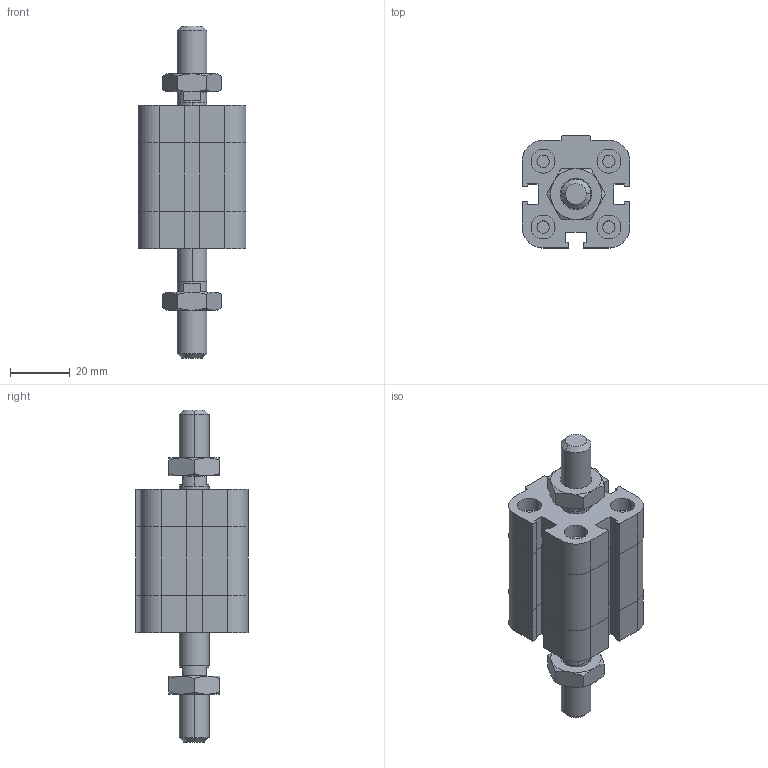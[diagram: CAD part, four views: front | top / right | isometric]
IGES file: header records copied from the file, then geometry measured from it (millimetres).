
Global section: file name: No Iges File Name specified; native system: Autodesk Inventor 2009; preprocessor: AutoDesk Inventor Iges Exporter R2009; author: maffial1; date: 20090420.200839; units: millimetre
Bounding box: 36 x 37.5 x 111 mm (x, y, z)
Volume: 59372.7 mm3; surface area: 20135.1 mm2
Topology: 4 solids, 4 shells, 260 faces, 574 edges, 342 vertices
Faces by surface type: plane 129, bspline 51, cone 38, cylinder 22, revolution 20
